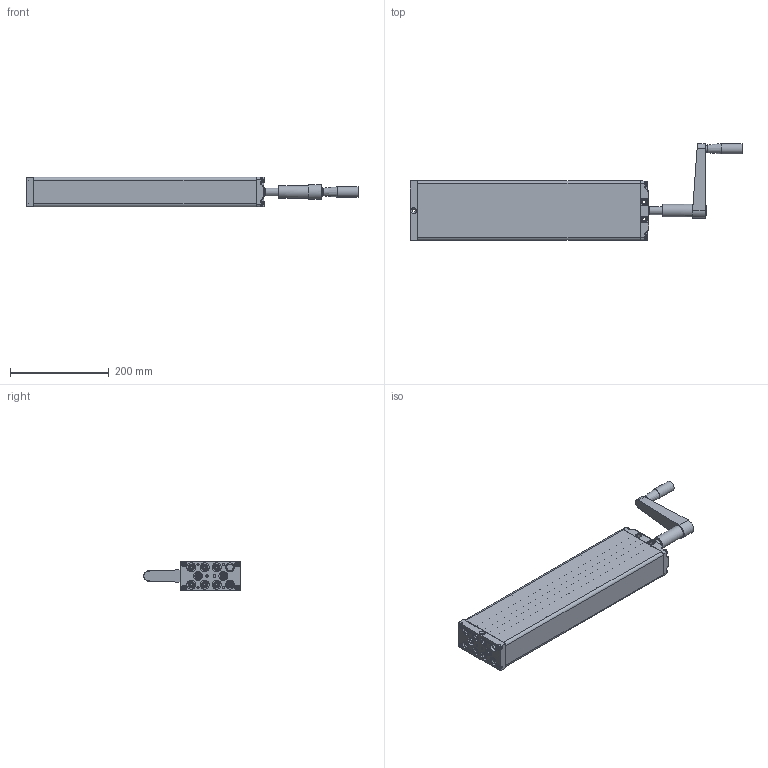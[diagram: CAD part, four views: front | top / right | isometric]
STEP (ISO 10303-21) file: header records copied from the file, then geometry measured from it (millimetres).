
FILE_DESCRIPTION(/* description */ ('Unknown'),/* implementation_level */ '2;1');
FILE_NAME(/* name */ '312.20182 Pumpe PB 9418 W mit Handkurbel',/* time_stamp */ '2016-11-25T12:38:42+01:00',/* author */ ('Unknown'),/* organization */ ('Unknown'),/* preprocessor_version */ 'ST-DEVELOPER v16.7',/* originating_system */ 'DEX',/* authorisation */ $);
FILE_SCHEMA (('AUTOMOTIVE_DESIGN {1 0 10303 214 3 1 1}'));
Products named in the file (22): 102.00182; 115.10023; 125.00031; 115.00007; 142.00021; 125.00021; 113.00005; 128.00001; 125.00052; 126.00013; 125.00053; 127.00014; Handgriff; 142.00013; 125.00143; 115.00140; 126.00006; 122.00040; 119.00043; 126.00036; 142.00057; 142.00017
Assembly tree (37 placements, depth 3):
  102.00182
    115.10023  x9
      125.00031
      115.00007
      142.00021
      125.00021
    113.00005
      128.00001
      125.00052
      126.00013
      125.00053
      127.00014
      Handgriff
    142.00013  x8
    125.00143
    115.00140
      126.00006
      122.00040
    119.00043
    126.00036
    142.00057
    142.00017  x2
Bounding box: 670.75 x 195.5 x 60.3 mm (x, y, z)
Volume: 777652.6 mm3; surface area: 478270.3 mm2
Topology: 49 solids, 49 shells, 2230 faces, 5087 edges, 2989 vertices
Faces by surface type: plane 799, cylinder 515, bspline 380, cone 373, torus 104, sphere 59
Full cylindrical faces by diameter (mm): 3.5 x9, 4 x2, 4.1 x9, 4.134 x4, 4.2 x10, 4.917 x4, 5 x8, 5.8 x4, 6 x2, 6.8 x1, 6.917 x18, 8 x20, 9 x9, 9.8 x8, 10 x6, 10.4 x1, 10.5 x4, 12.5 x9, 12.8 x1, 13 x29, 13.9 x18, 14 x1, 16 x2, 17 x1, 18 x11, 19 x1, 20.6 x1, 21 x1, 22 x1, 25.5 x1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
Entity records: 63571 total; most frequent: CARTESIAN_POINT 30445, ORIENTED_EDGE 5318, DIRECTION 4751, EDGE_CURVE 2659, AXIS2_PLACEMENT_3D 1851, VERTEX_POINT 1690, FACE_BOUND 1519, EDGE_LOOP 1516
